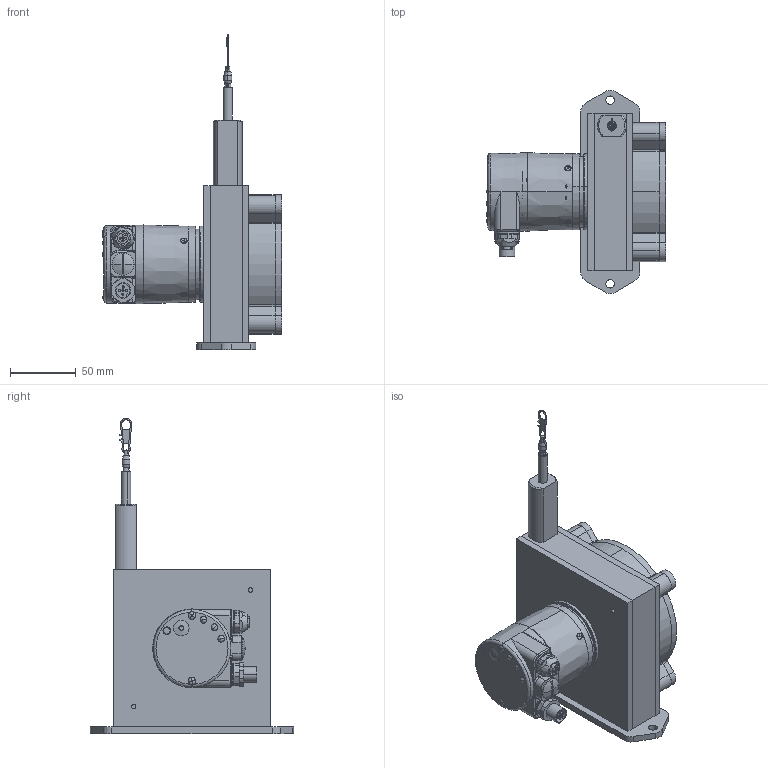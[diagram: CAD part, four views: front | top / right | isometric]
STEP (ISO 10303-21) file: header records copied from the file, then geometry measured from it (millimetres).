
FILE_DESCRIPTION (( 'STEP AP214' ), '1' );
FILE_NAME ('D8.4C1.0600.6822.2113.STEP', '2009-05-12T08:23:30', ( 'admin' ), ( 'Fritz Kübler GmbH' ), 'SwSTEP 2.0', 'SolidWorks 2009', '' );
FILE_SCHEMA (( 'AUTOMOTIVE_DESIGN' ));
Length unit declared in the file: millimetre
Products named in the file (1): D8.4C1.0600.6822.2113
Bounding box: 136.65 x 155 x 240.32 mm (x, y, z)
Volume: 408281.2 mm3; surface area: 216799.1 mm2
Topology: 30 solids, 30 shells, 1475 faces, 3600 edges, 2219 vertices
Faces by surface type: cylinder 591, plane 432, cone 236, torus 139, bspline 48, sphere 29
Entity records: 63680 total; most frequent: CARTESIAN_POINT 12070, DIRECTION 7772, ORIENTED_EDGE 7060, EDGE_CURVE 3530, AXIS2_PLACEMENT_3D 3169, VERTEX_POINT 2215, CIRCLE 1741, EDGE_LOOP 1691
